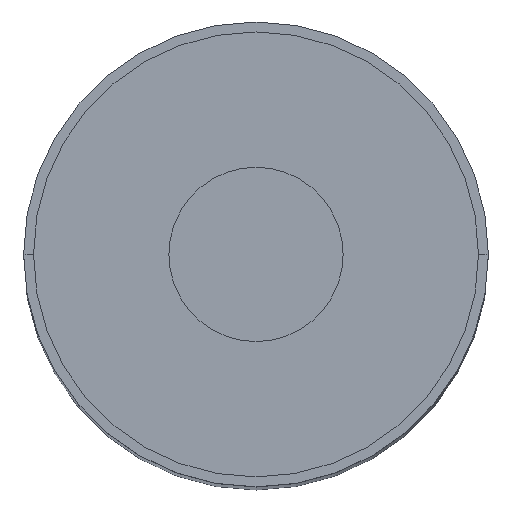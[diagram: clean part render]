
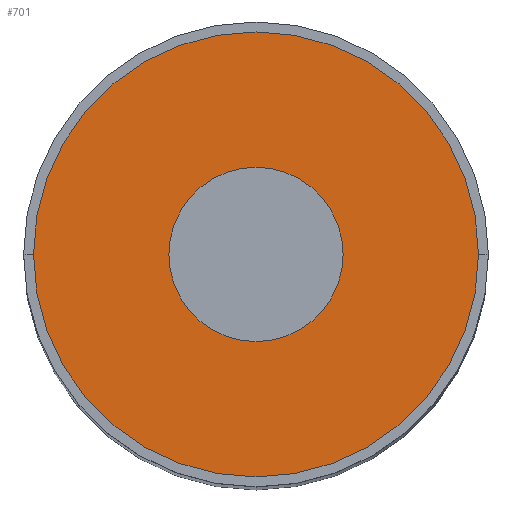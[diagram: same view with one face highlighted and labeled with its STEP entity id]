
A CAD part, top view. The second image highlights one B-rep face of the part: STEP entity #701.
In plain terms, the highlighted planar face has unit normal (0, 0, 1).
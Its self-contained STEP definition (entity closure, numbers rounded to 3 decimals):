
#1 = VERTEX_POINT ( 'NONE', #255 ) ;
#103 = CIRCLE ( 'NONE', #758, 11.488 ) ;
#146 = CIRCLE ( 'NONE', #595, 4.5 ) ;
#174 = EDGE_CURVE ( 'NONE', #801, #1, #313, .T. ) ;
#188 = EDGE_CURVE ( 'NONE', #360, #811, #103, .T. ) ;
#231 = CARTESIAN_POINT ( 'NONE',  ( -4.5, 0., 100.075 ) ) ;
#240 = CARTESIAN_POINT ( 'NONE',  ( -11.488, 0., 100.075 ) ) ;
#254 = EDGE_LOOP ( 'NONE', ( #499, #528 ) ) ;
#255 = CARTESIAN_POINT ( 'NONE',  ( 4.5, 0., 100.075 ) ) ;
#313 = CIRCLE ( 'NONE', #760, 4.5 ) ;
#329 = ORIENTED_EDGE ( 'NONE', *, *, #427, .T. ) ;
#360 = VERTEX_POINT ( 'NONE', #652 ) ;
#387 = EDGE_CURVE ( 'NONE', #811, #360, #568, .T. ) ;
#397 = DIRECTION ( 'NONE',  ( -1., 0., 0. ) ) ;
#398 = CARTESIAN_POINT ( 'NONE',  ( 0., 4.5, 100.075 ) ) ;
#427 = EDGE_CURVE ( 'NONE', #1, #801, #146, .T. ) ;
#433 = PLANE ( 'NONE',  #444 ) ;
#444 = AXIS2_PLACEMENT_3D ( 'NONE', #398, #624, #397 ) ;
#494 = FACE_OUTER_BOUND ( 'NONE', #254, .T. ) ;
#499 = ORIENTED_EDGE ( 'NONE', *, *, #387, .F. ) ;
#526 = FACE_BOUND ( 'NONE', #771, .T. ) ;
#528 = ORIENTED_EDGE ( 'NONE', *, *, #188, .F. ) ;
#566 = ORIENTED_EDGE ( 'NONE', *, *, #174, .T. ) ;
#568 = CIRCLE ( 'NONE', #608, 11.488 ) ;
#572 = DIRECTION ( 'NONE',  ( -1., 0., 0. ) ) ;
#573 = DIRECTION ( 'NONE',  ( 0., 0., -1. ) ) ;
#574 = CARTESIAN_POINT ( 'NONE',  ( 0., 0., 100.075 ) ) ;
#595 = AXIS2_PLACEMENT_3D ( 'NONE', #574, #573, #572 ) ;
#608 = AXIS2_PLACEMENT_3D ( 'NONE', #622, #621, #620 ) ;
#620 = DIRECTION ( 'NONE',  ( -1., 0., 0. ) ) ;
#621 = DIRECTION ( 'NONE',  ( 0., 0., -1. ) ) ;
#622 = CARTESIAN_POINT ( 'NONE',  ( 0., 0., 100.075 ) ) ;
#624 = DIRECTION ( 'NONE',  ( 0., 0., -1. ) ) ;
#652 = CARTESIAN_POINT ( 'NONE',  ( 11.488, 0., 100.075 ) ) ;
#701 = ADVANCED_FACE ( 'NONE', ( #494, #526 ), #433, .F. ) ;
#758 = AXIS2_PLACEMENT_3D ( 'NONE', #768, #767, #764 ) ;
#760 = AXIS2_PLACEMENT_3D ( 'NONE', #782, #780, #778 ) ;
#764 = DIRECTION ( 'NONE',  ( -1., 0., 0. ) ) ;
#767 = DIRECTION ( 'NONE',  ( 0., 0., -1. ) ) ;
#768 = CARTESIAN_POINT ( 'NONE',  ( 0., 0., 100.075 ) ) ;
#771 = EDGE_LOOP ( 'NONE', ( #566, #329 ) ) ;
#778 = DIRECTION ( 'NONE',  ( -1., 0., 0. ) ) ;
#780 = DIRECTION ( 'NONE',  ( 0., 0., -1. ) ) ;
#782 = CARTESIAN_POINT ( 'NONE',  ( 0., 0., 100.075 ) ) ;
#801 = VERTEX_POINT ( 'NONE', #231 ) ;
#811 = VERTEX_POINT ( 'NONE', #240 ) ;
